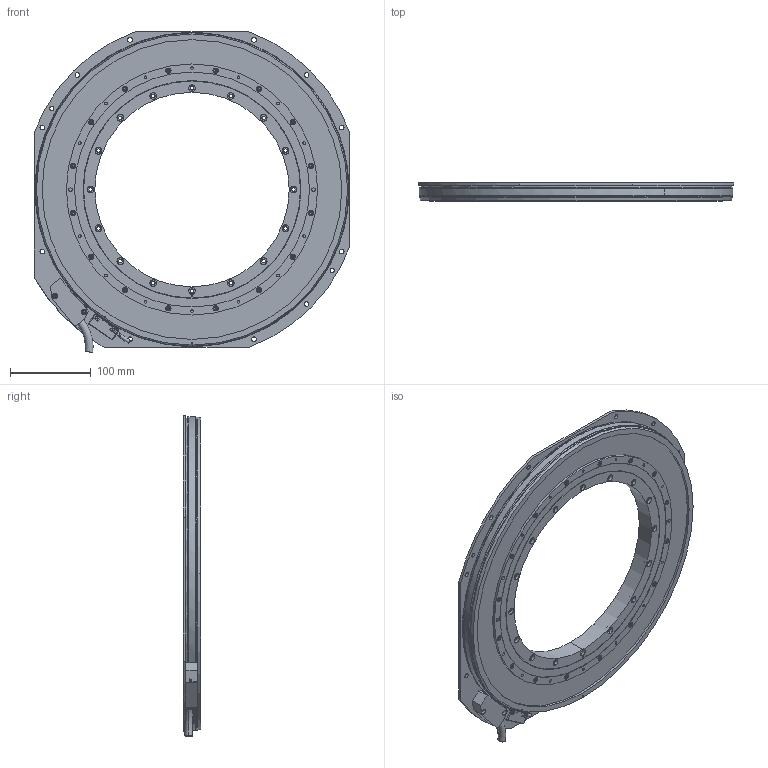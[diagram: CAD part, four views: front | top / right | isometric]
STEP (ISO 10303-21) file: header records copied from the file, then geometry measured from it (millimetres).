
FILE_DESCRIPTION (( 'STEP AP203' ), '1' );
FILE_NAME ('T24114A1_DMTF2-80SP00-S0-3XS-0-0.STEP', '2024-01-22T10:40:46', ( '' ), ( '' ), 'SwSTEP 2.0', 'SolidWorks 2015', '' );
FILE_SCHEMA (( 'CONFIG_CONTROL_DESIGN' ));
Length unit declared in the file: millimetre
Products named in the file (1): T24114A1_DMTF2-80SP00-S0-3XS-0-0
Bounding box: 390 x 22 x 396.08 mm (x, y, z)
Volume: 1525772.2 mm3; surface area: 253516.8 mm2
Topology: 1 solids, 1 shells, 1110 faces, 2702 edges, 1730 vertices
Faces by surface type: plane 497, cylinder 391, cone 140, bspline 41, torus 41
Entity records: 33503 total; most frequent: CARTESIAN_POINT 7133, DIRECTION 5606, ORIENTED_EDGE 5316, EDGE_CURVE 2658, AXIS2_PLACEMENT_3D 2117, VERTEX_POINT 1730, LINE 1372, VECTOR 1372
